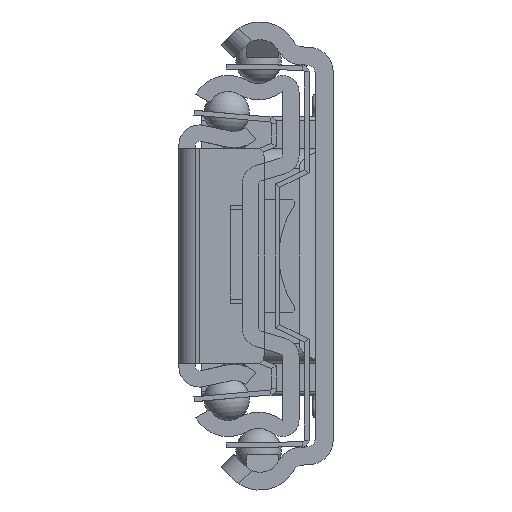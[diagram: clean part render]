
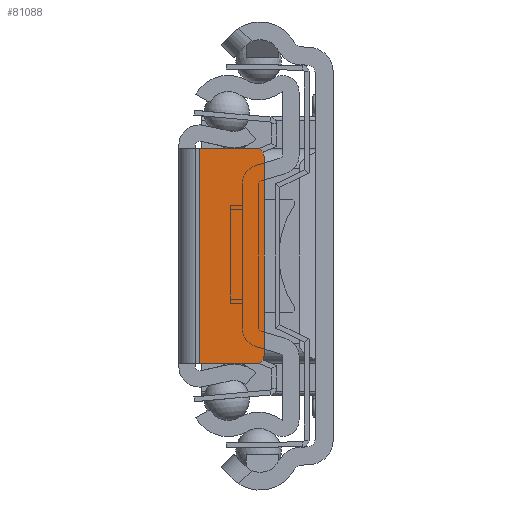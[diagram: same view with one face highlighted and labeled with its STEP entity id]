
A CAD part, left-side view. The second image highlights one B-rep face of the part: STEP entity #81088.
In plain terms, the highlighted planar face has unit normal (-1, 0, 0).
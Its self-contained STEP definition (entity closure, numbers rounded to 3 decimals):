
#76816=CARTESIAN_POINT('',(0.,-9.,-12.25));
#76817=DIRECTION('',(-1.,0.,0.));
#76818=DIRECTION('',(0.,0.,-1.));
#76819=AXIS2_PLACEMENT_3D('',#76816,#76817,#76818);
#76821=DIRECTION('',(0.,0.,-1.));
#76822=VECTOR('',#76821,26.5);
#76823=CARTESIAN_POINT('',(0.,-2.,13.25));
#76824=LINE('',#76823,#76822);
#76825=CARTESIAN_POINT('',(0.,-9.,12.25));
#76826=DIRECTION('',(-1.,0.,0.));
#76827=DIRECTION('',(0.,-1.,0.));
#76828=AXIS2_PLACEMENT_3D('',#76825,#76826,#76827);
#76847=DIRECTION('',(0.,-1.,0.));
#76848=VECTOR('',#76847,7.);
#76849=CARTESIAN_POINT('',(0.,-2.,-13.25));
#76850=LINE('',#76849,#76848);
#77607=DIRECTION('',(0.,-1.,0.));
#77608=VECTOR('',#77607,7.);
#77609=CARTESIAN_POINT('',(0.,-2.,13.25));
#77610=LINE('',#77609,#77608);
#77628=DIRECTION('',(0.,0.,1.));
#77629=VECTOR('',#77628,24.5);
#77630=CARTESIAN_POINT('',(0.,-10.,-12.25));
#77631=LINE('',#77630,#77629);
#80213=CARTESIAN_POINT('',(0.,-2.,-13.25));
#80215=VERTEX_POINT('',#80213);
#80222=CARTESIAN_POINT('',(0.,-2.,13.25));
#80224=VERTEX_POINT('',#80222);
#80241=CARTESIAN_POINT('',(0.,-9.,-13.25));
#80242=CARTESIAN_POINT('',(0.,-10.,-12.25));
#80243=VERTEX_POINT('',#80241);
#80244=VERTEX_POINT('',#80242);
#80253=CARTESIAN_POINT('',(0.,-10.,12.25));
#80254=VERTEX_POINT('',#80253);
#80255=CARTESIAN_POINT('',(0.,-9.,13.25));
#80256=VERTEX_POINT('',#80255);
#81070=CARTESIAN_POINT('',(0.,0.5,-13.25));
#81071=DIRECTION('',(-1.,0.,0.));
#81072=DIRECTION('',(0.,-1.,0.));
#81073=AXIS2_PLACEMENT_3D('',#81070,#81071,#81072);
#81074=PLANE('',#81073);
#81075=ORIENTED_EDGE('',*,*,#81060,.F.);
#81077=ORIENTED_EDGE('',*,*,#81076,.F.);
#81079=ORIENTED_EDGE('',*,*,#81078,.F.);
#81081=ORIENTED_EDGE('',*,*,#81080,.T.);
#81083=ORIENTED_EDGE('',*,*,#81082,.F.);
#81085=ORIENTED_EDGE('',*,*,#81084,.F.);
#81086=EDGE_LOOP('',(#81075,#81077,#81079,#81081,#81083,#81085));
#81087=FACE_OUTER_BOUND('',#81086,.F.);
#76820=CIRCLE('',#76819,1.);
#76829=CIRCLE('',#76828,1.);
#81060=EDGE_CURVE('',#80243,#80244,#76820,.T.);
#81076=EDGE_CURVE('',#80215,#80243,#76850,.T.);
#81078=EDGE_CURVE('',#80224,#80215,#76824,.T.);
#81080=EDGE_CURVE('',#80224,#80256,#77610,.T.);
#81082=EDGE_CURVE('',#80254,#80256,#76829,.T.);
#81084=EDGE_CURVE('',#80244,#80254,#77631,.T.);
#81088=ADVANCED_FACE('',(#81087),#81074,.T.);
